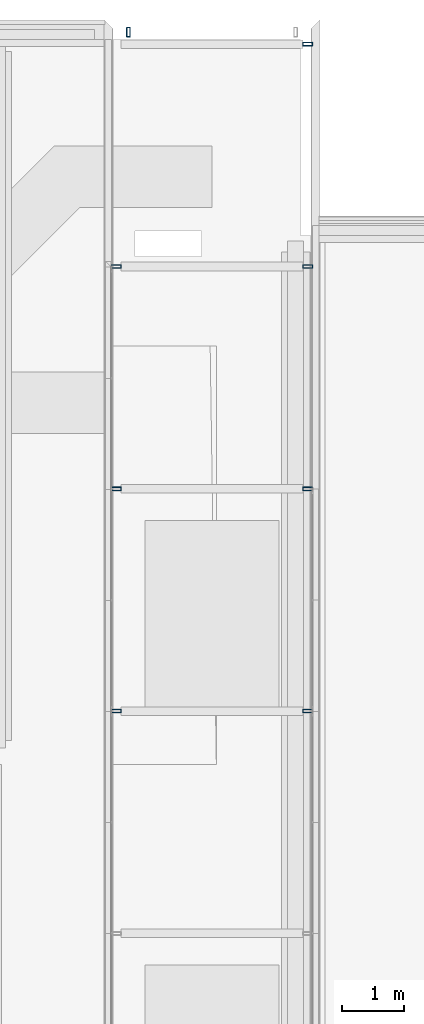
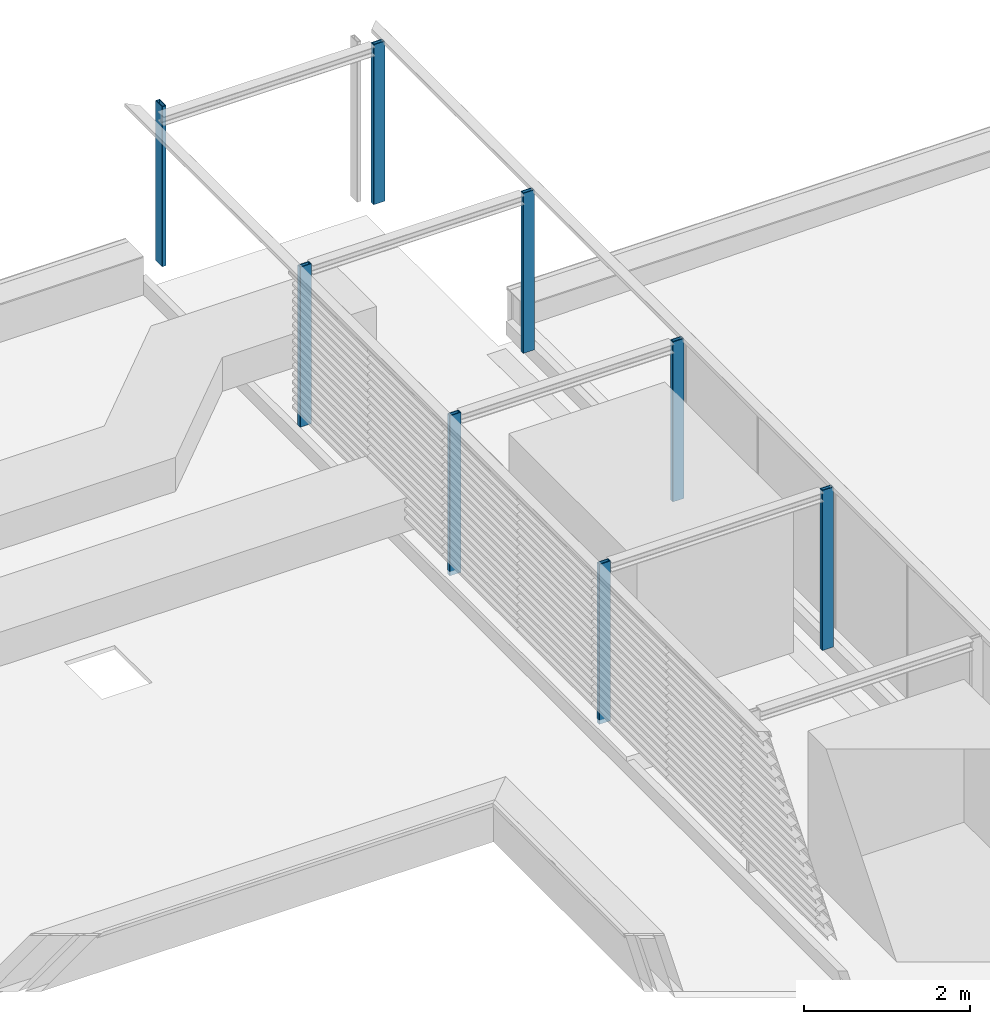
# One storey, part 2 of 32: 8 columns.
"""IFC2X3 building model written with IfcOpenShell, lengths in millimetres."""

from ifc_helpers import new_model, entity, si_unit, converted_unit, derived_unit, direction, frame, frame_2d, origin, place, context, subcontext, project, spatial, polyline, circle_curve, parameter, trimmed, segment, composite_curve, outline, extrude, source, transform, mapped, material, type_object, type_shapes, element, save


model = new_model("IFC2X3")

# Units and contexts
model_context = context("Model", 3, precision=0.01, world=origin(), true_north=direction((6.123031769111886e-17, 1.0)))
body_context = subcontext(model_context, "Body", "Model", "MODEL_VIEW")
ifc_project = project(units=[si_unit("LENGTHUNIT", "METRE", prefix="MILLI"), si_unit("AREAUNIT", "SQUARE_METRE"), si_unit("VOLUMEUNIT", "CUBIC_METRE"), converted_unit("PLANEANGLEUNIT", "DEGREE", entity("IfcRatioMeasure", 0.017453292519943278), si_unit("PLANEANGLEUNIT", "RADIAN"), dimensions=[0, 0, 0, 0, 0, 0, 0]), si_unit("MASSUNIT", "GRAM", prefix="KILO"), derived_unit("MASSDENSITYUNIT", [(si_unit("MASSUNIT", "GRAM", prefix="KILO"), 1), (si_unit("LENGTHUNIT", "METRE"), -3)]), derived_unit("IONCONCENTRATIONUNIT", [(si_unit("MASSUNIT", "GRAM", prefix="KILO"), 1), (si_unit("LENGTHUNIT", "METRE"), -3)]), derived_unit("MOMENTOFINERTIAUNIT", [(si_unit("LENGTHUNIT", "METRE"), 4)]), si_unit("TIMEUNIT", "SECOND"), si_unit("FREQUENCYUNIT", "HERTZ"), si_unit("THERMODYNAMICTEMPERATUREUNIT", "DEGREE_CELSIUS"), derived_unit("THERMALTRANSMITTANCEUNIT", [(si_unit("MASSUNIT", "GRAM", prefix="KILO"), 1), (si_unit("THERMODYNAMICTEMPERATUREUNIT", "KELVIN"), -1), (si_unit("TIMEUNIT", "SECOND"), -3)]), derived_unit("THERMALCONDUCTANCEUNIT", [(si_unit("MASSUNIT", "GRAM", prefix="KILO"), 1), (si_unit("THERMODYNAMICTEMPERATUREUNIT", "KELVIN"), -1), (si_unit("TIMEUNIT", "SECOND"), -3), (si_unit("LENGTHUNIT", "METRE"), 1)]), derived_unit("VOLUMETRICFLOWRATEUNIT", [(si_unit("LENGTHUNIT", "METRE"), 3), (si_unit("TIMEUNIT", "SECOND"), -1)]), derived_unit("MASSFLOWRATEUNIT", [(si_unit("MASSUNIT", "GRAM", prefix="KILO"), 1), (si_unit("TIMEUNIT", "SECOND"), -1)]), derived_unit("ROTATIONALFREQUENCYUNIT", [(si_unit("TIMEUNIT", "SECOND"), -1)]), si_unit("ELECTRICCURRENTUNIT", "AMPERE"), si_unit("ELECTRICVOLTAGEUNIT", "VOLT"), si_unit("POWERUNIT", "WATT"), si_unit("FORCEUNIT", "NEWTON", prefix="KILO"), si_unit("ILLUMINANCEUNIT", "LUX"), si_unit("LUMINOUSFLUXUNIT", "LUMEN"), si_unit("LUMINOUSINTENSITYUNIT", "CANDELA"), derived_unit("USERDEFINED", [(si_unit("MASSUNIT", "GRAM", prefix="KILO"), -1), (si_unit("LENGTHUNIT", "METRE"), -2), (si_unit("TIMEUNIT", "SECOND"), 3), (si_unit("LUMINOUSFLUXUNIT", "LUMEN"), 1)]), derived_unit("USERDEFINED", [(si_unit("MASSUNIT", "GRAM", prefix="KILO"), 1), (si_unit("TIMEUNIT", "SECOND"), -3), (si_unit("LENGTHUNIT", "METRE"), 3), (si_unit("ELECTRICCURRENTUNIT", "AMPERE"), -2)]), derived_unit("SOUNDPOWERUNIT", [(si_unit("MASSUNIT", "GRAM", prefix="KILO"), 1), (si_unit("TIMEUNIT", "SECOND"), -3), (si_unit("LENGTHUNIT", "METRE"), 2)]), derived_unit("SOUNDPRESSUREUNIT", [(si_unit("MASSUNIT", "GRAM", prefix="KILO"), 1), (si_unit("LENGTHUNIT", "METRE"), -1), (si_unit("TIMEUNIT", "SECOND"), -2)]), derived_unit("LINEARVELOCITYUNIT", [(si_unit("LENGTHUNIT", "METRE"), 1), (si_unit("TIMEUNIT", "SECOND"), -1)]), si_unit("PRESSUREUNIT", "PASCAL"), derived_unit("USERDEFINED", [(si_unit("MASSUNIT", "GRAM", prefix="KILO"), 1), (si_unit("LENGTHUNIT", "METRE"), -2), (si_unit("TIMEUNIT", "SECOND"), -2)]), derived_unit("LINEARFORCEUNIT", [(si_unit("MASSUNIT", "GRAM", prefix="KILO"), 1), (si_unit("TIMEUNIT", "SECOND"), -2)]), derived_unit("PLANARFORCEUNIT", [(si_unit("MASSUNIT", "GRAM", prefix="KILO"), 1), (si_unit("LENGTHUNIT", "METRE"), -1), (si_unit("TIMEUNIT", "SECOND"), -2)]), derived_unit("SPECIFICHEATCAPACITYUNIT", [(si_unit("THERMODYNAMICTEMPERATUREUNIT", "KELVIN"), -1), (si_unit("LENGTHUNIT", "METRE"), 2), (si_unit("TIMEUNIT", "SECOND"), -2)]), derived_unit("HEATINGVALUEUNIT", [(si_unit("LENGTHUNIT", "METRE"), 2), (si_unit("TIMEUNIT", "SECOND"), -2)]), derived_unit("VAPORPERMEABILITYUNIT", [(si_unit("LENGTHUNIT", "METRE"), -1), (si_unit("TIMEUNIT", "SECOND"), 1)]), derived_unit("DYNAMICVISCOSITYUNIT", [(si_unit("MASSUNIT", "GRAM", prefix="KILO"), 1), (si_unit("TIMEUNIT", "SECOND"), -1), (si_unit("LENGTHUNIT", "METRE"), -1)]), derived_unit("THERMALEXPANSIONCOEFFICIENTUNIT", [(si_unit("THERMODYNAMICTEMPERATUREUNIT", "KELVIN"), -1)]), derived_unit("MODULUSOFELASTICITYUNIT", [(si_unit("MASSUNIT", "GRAM", prefix="KILO"), 1), (si_unit("LENGTHUNIT", "METRE"), -1), (si_unit("TIMEUNIT", "SECOND"), -2)]), derived_unit("ISOTHERMALMOISTURECAPACITYUNIT", [(si_unit("LENGTHUNIT", "METRE"), 3), (si_unit("MASSUNIT", "GRAM", prefix="KILO"), -1)]), derived_unit("MOISTUREDIFFUSIVITYUNIT", [(si_unit("TIMEUNIT", "SECOND"), -1), (si_unit("LENGTHUNIT", "METRE"), 2)])], contexts=[model_context])

# Site, building, storey
site_placement = place(None, frame((0.0, 300.0, 0.0)))
site = spatial("IfcSite", under=ifc_project, at=site_placement, Name="<Kadastrale nummers>", CompositionType="ELEMENT")
building_placement = place(site_placement, origin())
building = spatial("IfcBuilding", under=site, at=building_placement, CompositionType="ELEMENT")
storey_placement = place(building_placement, frame((0.0, 0.0, 7150.000035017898)))
storey = spatial("IfcBuildingStorey", under=building, at=storey_placement, Name="02 tweede verdieping", CompositionType="ELEMENT", Elevation=7150.000035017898)

# Columns
ifc_material = material(Name="ISR_Staal")
column_type_1 = type_object("IfcColumnType", Name="NLRS_28_SCO_TLB_kolom koker RHS_gen_ASN:kolom K120x60x10", PredefinedType="COLUMN", material=ifc_material)
shared_shape_1 = source(origin(), body_context, "Body", "SweptSolid", [
    extrude(outline(composite_curve([segment(trimmed(circle_curve(frame_2d((24.0, 74.0), x_axis=(1.0, 0.0)), 6.0), [parameter(0.0)], [parameter(90.00000000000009)], True, "PARAMETER"), True, "CONTINUOUS"), segment(polyline([(24.0, 80.0), (-24.0, 80.0)]), True, "CONTINUOUS"), segment(trimmed(circle_curve(frame_2d((-24.0, 74.0), x_axis=(1.0, 0.0)), 6.0), [parameter(90.00000000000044)], [parameter(180.0000000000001)], True, "PARAMETER"), True, "CONTINUOUS"), segment(polyline([(-30.0, 74.0), (-30.0, -74.0)]), True, "CONTINUOUS"), segment(trimmed(circle_curve(frame_2d((-24.0, -74.0), x_axis=(1.0, 0.0)), 6.0), [parameter(180.0000000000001)], [parameter(269.9999999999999)], True, "PARAMETER"), True, "CONTINUOUS"), segment(polyline([(-24.0, -80.0), (24.0, -80.0)]), True, "CONTINUOUS"), segment(trimmed(circle_curve(frame_2d((24.0, -74.0), x_axis=(1.0, 0.0)), 6.000000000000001), [parameter(270.0000000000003)], [parameter(5.088887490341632e-13)], True, "PARAMETER"), True, "CONTINUOUS"), segment(polyline([(30.0, -74.0), (30.0, 74.0)]), True, "CONTINUOUS")], self_intersect=False), holes=[composite_curve([segment(polyline([(-17.0, 70.0), (17.0, 70.0)]), True, "CONTINUOUS"), segment(trimmed(circle_curve(frame_2d((17.0, 67.0), x_axis=(1.0, 0.0)), 3.0000000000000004), [parameter(359.99999999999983)], [parameter(90.00000000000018)], True, "PARAMETER"), False, "CONTINUOUS"), segment(polyline([(20.0, 67.0), (20.0, -67.0)]), True, "CONTINUOUS"), segment(trimmed(circle_curve(frame_2d((17.0, -67.0), x_axis=(1.0, 0.0)), 2.9999999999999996), [parameter(269.9999999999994)], [parameter(359.99999999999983)], True, "PARAMETER"), False, "CONTINUOUS"), segment(polyline([(17.0, -70.0), (-17.0, -70.0)]), True, "CONTINUOUS"), segment(trimmed(circle_curve(frame_2d((-17.0, -67.0), x_axis=(1.0, 0.0)), 3.0), [parameter(180.0000000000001)], [parameter(269.9999999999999)], True, "PARAMETER"), False, "CONTINUOUS"), segment(polyline([(-20.0, -67.0), (-20.0, 67.0)]), True, "CONTINUOUS"), segment(trimmed(circle_curve(frame_2d((-17.0, 67.0), x_axis=(1.0, 0.0)), 3.0000000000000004), [parameter(90.00000000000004)], [parameter(180.00000000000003)], True, "PARAMETER"), False, "CONTINUOUS")], self_intersect=False)]), frame((41595.0, 49800.0, 7350.000035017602), z_axis=(0.0, 0.0, 1.0), x_axis=(0.0, -1.0, 0.0)), (0.0, 0.0, 1.0), 2349.9999649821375),
])
type_shapes(column_type_1, [shared_shape_1])
column_1_placement = place(storey_placement, frame((0.0, 0.0, -7150.000035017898)))
element("IfcColumn", 1, at=column_1_placement, inside=storey, type_object=column_type_1, material=ifc_material, Name="NLRS_28_SCO_TLB_kolom koker RHS_gen_ASN:kolom K120x60x10", ObjectType="NLRS_28_SCO_TLB_kolom koker RHS_gen_ASN:kolom K120x60x10", context=body_context, shape_type="MappedRepresentation", body=[
    mapped(shared_shape_1, transform((0.0, 0.0, 0.0), scale=1.0)),
])
column_type_2 = type_object("IfcColumnType", Name="NLRS_28_SCO_TLB_kolom koker RHS_gen_ASN:kolom K120x60x10", PredefinedType="COLUMN", material=ifc_material)
shared_shape_2 = source(origin(), body_context, "Body", "SweptSolid", [
    extrude(outline(composite_curve([segment(trimmed(circle_curve(frame_2d((24.0, 74.0), x_axis=(1.0, 0.0)), 6.0), [parameter(0.0)], [parameter(90.00000000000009)], True, "PARAMETER"), True, "CONTINUOUS"), segment(polyline([(24.0, 80.0), (-24.0, 80.0)]), True, "CONTINUOUS"), segment(trimmed(circle_curve(frame_2d((-24.0, 74.0), x_axis=(1.0, 0.0)), 6.0), [parameter(90.00000000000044)], [parameter(180.0000000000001)], True, "PARAMETER"), True, "CONTINUOUS"), segment(polyline([(-30.0, 74.0), (-30.0, -74.0)]), True, "CONTINUOUS"), segment(trimmed(circle_curve(frame_2d((-24.0, -74.0), x_axis=(1.0, 0.0)), 6.0), [parameter(180.0000000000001)], [parameter(269.9999999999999)], True, "PARAMETER"), True, "CONTINUOUS"), segment(polyline([(-24.0, -80.0), (24.0, -80.0)]), True, "CONTINUOUS"), segment(trimmed(circle_curve(frame_2d((24.0, -74.0), x_axis=(1.0, 0.0)), 6.000000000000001), [parameter(270.0000000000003)], [parameter(5.088887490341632e-13)], True, "PARAMETER"), True, "CONTINUOUS"), segment(polyline([(30.0, -74.0), (30.0, 74.0)]), True, "CONTINUOUS")], self_intersect=False), holes=[composite_curve([segment(polyline([(-17.0, 70.0), (17.0, 70.0)]), True, "CONTINUOUS"), segment(trimmed(circle_curve(frame_2d((17.0, 67.0), x_axis=(1.0, 0.0)), 3.0000000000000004), [parameter(359.99999999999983)], [parameter(90.00000000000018)], True, "PARAMETER"), False, "CONTINUOUS"), segment(polyline([(20.0, 67.0), (20.0, -67.0)]), True, "CONTINUOUS"), segment(trimmed(circle_curve(frame_2d((17.0, -67.0), x_axis=(1.0, 0.0)), 2.9999999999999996), [parameter(269.9999999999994)], [parameter(359.99999999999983)], True, "PARAMETER"), False, "CONTINUOUS"), segment(polyline([(17.0, -70.0), (-17.0, -70.0)]), True, "CONTINUOUS"), segment(trimmed(circle_curve(frame_2d((-17.0, -67.0), x_axis=(1.0, 0.0)), 3.0), [parameter(180.0000000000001)], [parameter(269.9999999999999)], True, "PARAMETER"), False, "CONTINUOUS"), segment(polyline([(-20.0, -67.0), (-20.0, 67.0)]), True, "CONTINUOUS"), segment(trimmed(circle_curve(frame_2d((-17.0, 67.0), x_axis=(1.0, 0.0)), 3.0000000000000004), [parameter(90.00000000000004)], [parameter(180.00000000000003)], True, "PARAMETER"), False, "CONTINUOUS")], self_intersect=False)]), frame((38495.0, 46200.0, 7350.000035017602), z_axis=(0.0, 0.0, 1.0), x_axis=(0.0, -1.0, 0.0)), (0.0, 0.0, 1.0), 2349.9999649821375),
])
type_shapes(column_type_2, [shared_shape_2])
column_2_placement = place(storey_placement, frame((0.0, 0.0, -7150.000035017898)))
element("IfcColumn", 2, at=column_2_placement, inside=storey, type_object=column_type_2, material=ifc_material, Name="NLRS_28_SCO_TLB_kolom koker RHS_gen_ASN:kolom K120x60x10", ObjectType="NLRS_28_SCO_TLB_kolom koker RHS_gen_ASN:kolom K120x60x10", context=body_context, shape_type="MappedRepresentation", body=[
    mapped(shared_shape_2, transform((0.0, 0.0, 0.0), scale=1.0)),
])
column_type_3 = type_object("IfcColumnType", Name="NLRS_28_SCO_TLB_kolom koker RHS_gen_ASN:kolom K120x60x10", PredefinedType="COLUMN", material=ifc_material)
shared_shape_3 = source(origin(), body_context, "Body", "SweptSolid", [
    extrude(outline(composite_curve([segment(trimmed(circle_curve(frame_2d((24.0, 74.0), x_axis=(1.0, 0.0)), 6.0), [parameter(0.0)], [parameter(90.00000000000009)], True, "PARAMETER"), True, "CONTINUOUS"), segment(polyline([(24.0, 80.0), (-24.0, 80.0)]), True, "CONTINUOUS"), segment(trimmed(circle_curve(frame_2d((-24.0, 74.0), x_axis=(1.0, 0.0)), 6.0), [parameter(90.00000000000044)], [parameter(180.0000000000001)], True, "PARAMETER"), True, "CONTINUOUS"), segment(polyline([(-30.0, 74.0), (-30.0, -74.0)]), True, "CONTINUOUS"), segment(trimmed(circle_curve(frame_2d((-24.0, -74.0), x_axis=(1.0, 0.0)), 6.0), [parameter(180.0000000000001)], [parameter(269.9999999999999)], True, "PARAMETER"), True, "CONTINUOUS"), segment(polyline([(-24.0, -80.0), (24.0, -80.0)]), True, "CONTINUOUS"), segment(trimmed(circle_curve(frame_2d((24.0, -74.0), x_axis=(1.0, 0.0)), 6.000000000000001), [parameter(270.0000000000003)], [parameter(5.088887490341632e-13)], True, "PARAMETER"), True, "CONTINUOUS"), segment(polyline([(30.0, -74.0), (30.0, 74.0)]), True, "CONTINUOUS")], self_intersect=False), holes=[composite_curve([segment(polyline([(-17.0, 70.0), (17.0, 70.0)]), True, "CONTINUOUS"), segment(trimmed(circle_curve(frame_2d((17.0, 67.0), x_axis=(1.0, 0.0)), 3.0000000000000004), [parameter(359.99999999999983)], [parameter(90.00000000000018)], True, "PARAMETER"), False, "CONTINUOUS"), segment(polyline([(20.0, 67.0), (20.0, -67.0)]), True, "CONTINUOUS"), segment(trimmed(circle_curve(frame_2d((17.0, -67.0), x_axis=(1.0, 0.0)), 2.9999999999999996), [parameter(269.9999999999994)], [parameter(359.99999999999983)], True, "PARAMETER"), False, "CONTINUOUS"), segment(polyline([(17.0, -70.0), (-17.0, -70.0)]), True, "CONTINUOUS"), segment(trimmed(circle_curve(frame_2d((-17.0, -67.0), x_axis=(1.0, 0.0)), 3.0), [parameter(180.0000000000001)], [parameter(269.9999999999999)], True, "PARAMETER"), False, "CONTINUOUS"), segment(polyline([(-20.0, -67.0), (-20.0, 67.0)]), True, "CONTINUOUS"), segment(trimmed(circle_curve(frame_2d((-17.0, 67.0), x_axis=(1.0, 0.0)), 3.0000000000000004), [parameter(90.00000000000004)], [parameter(180.00000000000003)], True, "PARAMETER"), False, "CONTINUOUS")], self_intersect=False)]), frame((41595.0, 46200.0, 7350.000035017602), z_axis=(0.0, 0.0, 1.0), x_axis=(0.0, -1.0, 0.0)), (0.0, 0.0, 1.0), 2349.9999649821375),
])
type_shapes(column_type_3, [shared_shape_3])
column_3_placement = place(storey_placement, frame((0.0, 0.0, -7150.000035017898)))
element("IfcColumn", 3, at=column_3_placement, inside=storey, type_object=column_type_3, material=ifc_material, Name="NLRS_28_SCO_TLB_kolom koker RHS_gen_ASN:kolom K120x60x10", ObjectType="NLRS_28_SCO_TLB_kolom koker RHS_gen_ASN:kolom K120x60x10", context=body_context, shape_type="MappedRepresentation", body=[
    mapped(shared_shape_3, transform((0.0, 0.0, 0.0), scale=1.0)),
])
column_type_4 = type_object("IfcColumnType", Name="NLRS_28_SCO_TLB_kolom koker RHS_gen_ASN:kolom K120x60x10", PredefinedType="COLUMN", material=ifc_material)
shared_shape_4 = source(origin(), body_context, "Body", "SweptSolid", [
    extrude(outline(composite_curve([segment(trimmed(circle_curve(frame_2d((24.0, 74.0), x_axis=(1.0, 0.0)), 6.0), [parameter(0.0)], [parameter(90.00000000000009)], True, "PARAMETER"), True, "CONTINUOUS"), segment(polyline([(24.0, 80.0), (-24.0, 80.0)]), True, "CONTINUOUS"), segment(trimmed(circle_curve(frame_2d((-24.0, 74.0), x_axis=(1.0, 0.0)), 6.0), [parameter(90.00000000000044)], [parameter(180.0000000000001)], True, "PARAMETER"), True, "CONTINUOUS"), segment(polyline([(-30.0, 74.0), (-30.0, -74.0)]), True, "CONTINUOUS"), segment(trimmed(circle_curve(frame_2d((-24.0, -74.0), x_axis=(1.0, 0.0)), 6.0), [parameter(180.0000000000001)], [parameter(269.9999999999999)], True, "PARAMETER"), True, "CONTINUOUS"), segment(polyline([(-24.0, -80.0), (24.0, -80.0)]), True, "CONTINUOUS"), segment(trimmed(circle_curve(frame_2d((24.0, -74.0), x_axis=(1.0, 0.0)), 6.000000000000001), [parameter(270.0000000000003)], [parameter(5.088887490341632e-13)], True, "PARAMETER"), True, "CONTINUOUS"), segment(polyline([(30.0, -74.0), (30.0, 74.0)]), True, "CONTINUOUS")], self_intersect=False), holes=[composite_curve([segment(polyline([(-17.0, 70.0), (17.0, 70.0)]), True, "CONTINUOUS"), segment(trimmed(circle_curve(frame_2d((17.0, 67.0), x_axis=(1.0, 0.0)), 3.0000000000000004), [parameter(359.99999999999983)], [parameter(90.00000000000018)], True, "PARAMETER"), False, "CONTINUOUS"), segment(polyline([(20.0, 67.0), (20.0, -67.0)]), True, "CONTINUOUS"), segment(trimmed(circle_curve(frame_2d((17.0, -67.0), x_axis=(1.0, 0.0)), 2.9999999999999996), [parameter(269.9999999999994)], [parameter(359.99999999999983)], True, "PARAMETER"), False, "CONTINUOUS"), segment(polyline([(17.0, -70.0), (-17.0, -70.0)]), True, "CONTINUOUS"), segment(trimmed(circle_curve(frame_2d((-17.0, -67.0), x_axis=(1.0, 0.0)), 3.0), [parameter(180.0000000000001)], [parameter(269.9999999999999)], True, "PARAMETER"), False, "CONTINUOUS"), segment(polyline([(-20.0, -67.0), (-20.0, 67.0)]), True, "CONTINUOUS"), segment(trimmed(circle_curve(frame_2d((-17.0, 67.0), x_axis=(1.0, 0.0)), 3.0000000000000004), [parameter(90.00000000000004)], [parameter(180.00000000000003)], True, "PARAMETER"), False, "CONTINUOUS")], self_intersect=False)]), frame((38495.0, 42600.0, 7350.000035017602), z_axis=(0.0, 0.0, 1.0), x_axis=(0.0, -1.0, 0.0)), (0.0, 0.0, 1.0), 2349.9999649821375),
])
type_shapes(column_type_4, [shared_shape_4])
column_4_placement = place(storey_placement, frame((0.0, 0.0, -7150.000035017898)))
element("IfcColumn", 4, at=column_4_placement, inside=storey, type_object=column_type_4, material=ifc_material, Name="NLRS_28_SCO_TLB_kolom koker RHS_gen_ASN:kolom K120x60x10", ObjectType="NLRS_28_SCO_TLB_kolom koker RHS_gen_ASN:kolom K120x60x10", context=body_context, shape_type="MappedRepresentation", body=[
    mapped(shared_shape_4, transform((0.0, 0.0, 0.0), scale=1.0)),
])
column_type_5 = type_object("IfcColumnType", Name="NLRS_28_SCO_TLB_kolom koker RHS_gen_ASN:kolom K120x60x10", PredefinedType="COLUMN", material=ifc_material)
shared_shape_5 = source(origin(), body_context, "Body", "SweptSolid", [
    extrude(outline(composite_curve([segment(trimmed(circle_curve(frame_2d((24.0, 74.0), x_axis=(1.0, 0.0)), 6.0), [parameter(0.0)], [parameter(90.00000000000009)], True, "PARAMETER"), True, "CONTINUOUS"), segment(polyline([(24.0, 80.0), (-24.0, 80.0)]), True, "CONTINUOUS"), segment(trimmed(circle_curve(frame_2d((-24.0, 74.0), x_axis=(1.0, 0.0)), 6.0), [parameter(90.00000000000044)], [parameter(180.0000000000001)], True, "PARAMETER"), True, "CONTINUOUS"), segment(polyline([(-30.0, 74.0), (-30.0, -74.0)]), True, "CONTINUOUS"), segment(trimmed(circle_curve(frame_2d((-24.0, -74.0), x_axis=(1.0, 0.0)), 6.0), [parameter(180.0000000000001)], [parameter(269.9999999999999)], True, "PARAMETER"), True, "CONTINUOUS"), segment(polyline([(-24.0, -80.0), (24.0, -80.0)]), True, "CONTINUOUS"), segment(trimmed(circle_curve(frame_2d((24.0, -74.0), x_axis=(1.0, 0.0)), 6.000000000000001), [parameter(270.0000000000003)], [parameter(5.088887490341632e-13)], True, "PARAMETER"), True, "CONTINUOUS"), segment(polyline([(30.0, -74.0), (30.0, 74.0)]), True, "CONTINUOUS")], self_intersect=False), holes=[composite_curve([segment(polyline([(-17.0, 70.0), (17.0, 70.0)]), True, "CONTINUOUS"), segment(trimmed(circle_curve(frame_2d((17.0, 67.0), x_axis=(1.0, 0.0)), 3.0000000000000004), [parameter(359.99999999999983)], [parameter(90.00000000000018)], True, "PARAMETER"), False, "CONTINUOUS"), segment(polyline([(20.0, 67.0), (20.0, -67.0)]), True, "CONTINUOUS"), segment(trimmed(circle_curve(frame_2d((17.0, -67.0), x_axis=(1.0, 0.0)), 2.9999999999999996), [parameter(269.9999999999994)], [parameter(359.99999999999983)], True, "PARAMETER"), False, "CONTINUOUS"), segment(polyline([(17.0, -70.0), (-17.0, -70.0)]), True, "CONTINUOUS"), segment(trimmed(circle_curve(frame_2d((-17.0, -67.0), x_axis=(1.0, 0.0)), 3.0), [parameter(180.0000000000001)], [parameter(269.9999999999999)], True, "PARAMETER"), False, "CONTINUOUS"), segment(polyline([(-20.0, -67.0), (-20.0, 67.0)]), True, "CONTINUOUS"), segment(trimmed(circle_curve(frame_2d((-17.0, 67.0), x_axis=(1.0, 0.0)), 3.0000000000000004), [parameter(90.00000000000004)], [parameter(180.00000000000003)], True, "PARAMETER"), False, "CONTINUOUS")], self_intersect=False)]), frame((41595.0, 42600.0, 7350.000035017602), z_axis=(0.0, 0.0, 1.0), x_axis=(0.0, -1.0, 0.0)), (0.0, 0.0, 1.0), 2349.9999649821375),
])
type_shapes(column_type_5, [shared_shape_5])
column_5_placement = place(storey_placement, frame((0.0, 0.0, -7150.000035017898)))
element("IfcColumn", 5, at=column_5_placement, inside=storey, type_object=column_type_5, material=ifc_material, Name="NLRS_28_SCO_TLB_kolom koker RHS_gen_ASN:kolom K120x60x10", ObjectType="NLRS_28_SCO_TLB_kolom koker RHS_gen_ASN:kolom K120x60x10", context=body_context, shape_type="MappedRepresentation", body=[
    mapped(shared_shape_5, transform((0.0, 0.0, 0.0), scale=1.0)),
])
column_type_6 = type_object("IfcColumnType", Name="NLRS_28_SCO_TLB_kolom koker RHS_gen_ASN:kolom K120x60x10", PredefinedType="COLUMN", material=ifc_material)
shared_shape_6 = source(origin(), body_context, "Body", "SweptSolid", [
    extrude(outline(composite_curve([segment(trimmed(circle_curve(frame_2d((24.0, 74.0), x_axis=(1.0, 0.0)), 6.0), [parameter(0.0)], [parameter(90.00000000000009)], True, "PARAMETER"), True, "CONTINUOUS"), segment(polyline([(24.0, 80.0), (-24.0, 80.0)]), True, "CONTINUOUS"), segment(trimmed(circle_curve(frame_2d((-24.0, 74.0), x_axis=(1.0, 0.0)), 6.0), [parameter(90.00000000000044)], [parameter(180.0000000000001)], True, "PARAMETER"), True, "CONTINUOUS"), segment(polyline([(-30.0, 74.0), (-30.0, -74.0)]), True, "CONTINUOUS"), segment(trimmed(circle_curve(frame_2d((-24.0, -74.0), x_axis=(1.0, 0.0)), 6.0), [parameter(180.0000000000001)], [parameter(269.9999999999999)], True, "PARAMETER"), True, "CONTINUOUS"), segment(polyline([(-24.0, -80.0), (24.0, -80.0)]), True, "CONTINUOUS"), segment(trimmed(circle_curve(frame_2d((24.0, -74.0), x_axis=(1.0, 0.0)), 6.000000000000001), [parameter(270.0000000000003)], [parameter(5.088887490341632e-13)], True, "PARAMETER"), True, "CONTINUOUS"), segment(polyline([(30.0, -74.0), (30.0, 74.0)]), True, "CONTINUOUS")], self_intersect=False), holes=[composite_curve([segment(polyline([(-17.0, 70.0), (17.0, 70.0)]), True, "CONTINUOUS"), segment(trimmed(circle_curve(frame_2d((17.0, 67.0), x_axis=(1.0, 0.0)), 3.0000000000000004), [parameter(359.99999999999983)], [parameter(90.00000000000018)], True, "PARAMETER"), False, "CONTINUOUS"), segment(polyline([(20.0, 67.0), (20.0, -67.0)]), True, "CONTINUOUS"), segment(trimmed(circle_curve(frame_2d((17.0, -67.0), x_axis=(1.0, 0.0)), 2.9999999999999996), [parameter(269.9999999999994)], [parameter(359.99999999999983)], True, "PARAMETER"), False, "CONTINUOUS"), segment(polyline([(17.0, -70.0), (-17.0, -70.0)]), True, "CONTINUOUS"), segment(trimmed(circle_curve(frame_2d((-17.0, -67.0), x_axis=(1.0, 0.0)), 3.0), [parameter(180.0000000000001)], [parameter(269.9999999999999)], True, "PARAMETER"), False, "CONTINUOUS"), segment(polyline([(-20.0, -67.0), (-20.0, 67.0)]), True, "CONTINUOUS"), segment(trimmed(circle_curve(frame_2d((-17.0, 67.0), x_axis=(1.0, 0.0)), 3.0000000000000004), [parameter(90.00000000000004)], [parameter(180.00000000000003)], True, "PARAMETER"), False, "CONTINUOUS")], self_intersect=False)]), frame((38495.0, 39000.0, 7350.000035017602), z_axis=(0.0, 0.0, 1.0), x_axis=(0.0, -1.0, 0.0)), (0.0, 0.0, 1.0), 2349.9999649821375),
])
type_shapes(column_type_6, [shared_shape_6])
column_6_placement = place(storey_placement, frame((0.0, 0.0, -7150.000035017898)))
element("IfcColumn", 6, at=column_6_placement, inside=storey, type_object=column_type_6, material=ifc_material, Name="NLRS_28_SCO_TLB_kolom koker RHS_gen_ASN:kolom K120x60x10", ObjectType="NLRS_28_SCO_TLB_kolom koker RHS_gen_ASN:kolom K120x60x10", context=body_context, shape_type="MappedRepresentation", body=[
    mapped(shared_shape_6, transform((0.0, 0.0, 0.0), scale=1.0)),
])
column_type_7 = type_object("IfcColumnType", Name="NLRS_28_SCO_TLB_kolom koker RHS_gen_ASN:kolom K120x60x10", PredefinedType="COLUMN", material=ifc_material)
shared_shape_7 = source(origin(), body_context, "Body", "SweptSolid", [
    extrude(outline(composite_curve([segment(trimmed(circle_curve(frame_2d((24.0, 74.0), x_axis=(1.0, 0.0)), 6.0), [parameter(0.0)], [parameter(90.00000000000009)], True, "PARAMETER"), True, "CONTINUOUS"), segment(polyline([(24.0, 80.0), (-24.0, 80.0)]), True, "CONTINUOUS"), segment(trimmed(circle_curve(frame_2d((-24.0, 74.0), x_axis=(1.0, 0.0)), 6.0), [parameter(90.00000000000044)], [parameter(180.0000000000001)], True, "PARAMETER"), True, "CONTINUOUS"), segment(polyline([(-30.0, 74.0), (-30.0, -74.0)]), True, "CONTINUOUS"), segment(trimmed(circle_curve(frame_2d((-24.0, -74.0), x_axis=(1.0, 0.0)), 6.0), [parameter(180.0000000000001)], [parameter(269.9999999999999)], True, "PARAMETER"), True, "CONTINUOUS"), segment(polyline([(-24.0, -80.0), (24.0, -80.0)]), True, "CONTINUOUS"), segment(trimmed(circle_curve(frame_2d((24.0, -74.0), x_axis=(1.0, 0.0)), 6.000000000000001), [parameter(270.0000000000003)], [parameter(5.088887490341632e-13)], True, "PARAMETER"), True, "CONTINUOUS"), segment(polyline([(30.0, -74.0), (30.0, 74.0)]), True, "CONTINUOUS")], self_intersect=False), holes=[composite_curve([segment(polyline([(-17.0, 70.0), (17.0, 70.0)]), True, "CONTINUOUS"), segment(trimmed(circle_curve(frame_2d((17.0, 67.0), x_axis=(1.0, 0.0)), 3.0000000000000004), [parameter(359.99999999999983)], [parameter(90.00000000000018)], True, "PARAMETER"), False, "CONTINUOUS"), segment(polyline([(20.0, 67.0), (20.0, -67.0)]), True, "CONTINUOUS"), segment(trimmed(circle_curve(frame_2d((17.0, -67.0), x_axis=(1.0, 0.0)), 2.9999999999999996), [parameter(269.9999999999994)], [parameter(359.99999999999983)], True, "PARAMETER"), False, "CONTINUOUS"), segment(polyline([(17.0, -70.0), (-17.0, -70.0)]), True, "CONTINUOUS"), segment(trimmed(circle_curve(frame_2d((-17.0, -67.0), x_axis=(1.0, 0.0)), 3.0), [parameter(180.0000000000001)], [parameter(269.9999999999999)], True, "PARAMETER"), False, "CONTINUOUS"), segment(polyline([(-20.0, -67.0), (-20.0, 67.0)]), True, "CONTINUOUS"), segment(trimmed(circle_curve(frame_2d((-17.0, 67.0), x_axis=(1.0, 0.0)), 3.0000000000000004), [parameter(90.00000000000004)], [parameter(180.00000000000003)], True, "PARAMETER"), False, "CONTINUOUS")], self_intersect=False)]), frame((41595.0, 39000.0, 7350.000035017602), z_axis=(0.0, 0.0, 1.0), x_axis=(0.0, -1.0, 0.0)), (0.0, 0.0, 1.0), 2349.9999649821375),
])
type_shapes(column_type_7, [shared_shape_7])
column_7_placement = place(storey_placement, frame((0.0, 0.0, -7150.000035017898)))
element("IfcColumn", 7, at=column_7_placement, inside=storey, type_object=column_type_7, material=ifc_material, Name="NLRS_28_SCO_TLB_kolom koker RHS_gen_ASN:kolom K120x60x10", ObjectType="NLRS_28_SCO_TLB_kolom koker RHS_gen_ASN:kolom K120x60x10", context=body_context, shape_type="MappedRepresentation", body=[
    mapped(shared_shape_7, transform((0.0, 0.0, 0.0), scale=1.0)),
])
column_type_8 = type_object("IfcColumnType", Name="NLRS_28_SCO_TLB_kolom koker RHS_gen_ASN:kolom K120x60x10", PredefinedType="COLUMN", material=ifc_material)
shared_shape_8 = source(origin(), body_context, "Body", "SweptSolid", [
    extrude(outline(composite_curve([segment(trimmed(circle_curve(frame_2d((24.0, 74.0), x_axis=(1.0, 0.0)), 6.0), [parameter(0.0)], [parameter(90.00000000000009)], True, "PARAMETER"), True, "CONTINUOUS"), segment(polyline([(24.0, 80.0), (-24.0, 80.0)]), True, "CONTINUOUS"), segment(trimmed(circle_curve(frame_2d((-24.0, 74.0), x_axis=(1.0, 0.0)), 6.0), [parameter(90.00000000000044)], [parameter(180.0000000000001)], True, "PARAMETER"), True, "CONTINUOUS"), segment(polyline([(-30.0, 74.0), (-30.0, -74.0)]), True, "CONTINUOUS"), segment(trimmed(circle_curve(frame_2d((-24.0, -74.0), x_axis=(1.0, 0.0)), 6.0), [parameter(180.0000000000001)], [parameter(269.9999999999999)], True, "PARAMETER"), True, "CONTINUOUS"), segment(polyline([(-24.0, -80.0), (24.0, -80.0)]), True, "CONTINUOUS"), segment(trimmed(circle_curve(frame_2d((24.0, -74.0), x_axis=(1.0, 0.0)), 6.000000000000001), [parameter(270.0000000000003)], [parameter(5.088887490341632e-13)], True, "PARAMETER"), True, "CONTINUOUS"), segment(polyline([(30.0, -74.0), (30.0, 74.0)]), True, "CONTINUOUS")], self_intersect=False), holes=[composite_curve([segment(polyline([(-17.0, 70.0), (17.0, 70.0)]), True, "CONTINUOUS"), segment(trimmed(circle_curve(frame_2d((17.0, 67.0), x_axis=(1.0, 0.0)), 3.0000000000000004), [parameter(359.99999999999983)], [parameter(90.00000000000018)], True, "PARAMETER"), False, "CONTINUOUS"), segment(polyline([(20.0, 67.0), (20.0, -67.0)]), True, "CONTINUOUS"), segment(trimmed(circle_curve(frame_2d((17.0, -67.0), x_axis=(1.0, 0.0)), 2.9999999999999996), [parameter(269.9999999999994)], [parameter(359.99999999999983)], True, "PARAMETER"), False, "CONTINUOUS"), segment(polyline([(17.0, -70.0), (-17.0, -70.0)]), True, "CONTINUOUS"), segment(trimmed(circle_curve(frame_2d((-17.0, -67.0), x_axis=(1.0, 0.0)), 3.0), [parameter(180.0000000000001)], [parameter(269.9999999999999)], True, "PARAMETER"), False, "CONTINUOUS"), segment(polyline([(-20.0, -67.0), (-20.0, 67.0)]), True, "CONTINUOUS"), segment(trimmed(circle_curve(frame_2d((-17.0, 67.0), x_axis=(1.0, 0.0)), 3.0000000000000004), [parameter(90.00000000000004)], [parameter(180.00000000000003)], True, "PARAMETER"), False, "CONTINUOUS")], self_intersect=False)]), frame((38690.0, 49995.0, 7350.000035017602)), (0.0, 0.0, 1.0), 2349.9999649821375),
])
type_shapes(column_type_8, [shared_shape_8])
column_8_placement = place(storey_placement, frame((0.0, 0.0, -7150.000035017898)))
element("IfcColumn", 8, at=column_8_placement, inside=storey, type_object=column_type_8, material=ifc_material, Name="NLRS_28_SCO_TLB_kolom koker RHS_gen_ASN:kolom K120x60x10", ObjectType="NLRS_28_SCO_TLB_kolom koker RHS_gen_ASN:kolom K120x60x10", context=body_context, shape_type="MappedRepresentation", body=[
    mapped(shared_shape_8, transform((0.0, 0.0, 0.0), scale=1.0)),
])

save(model, "model.ifc")
